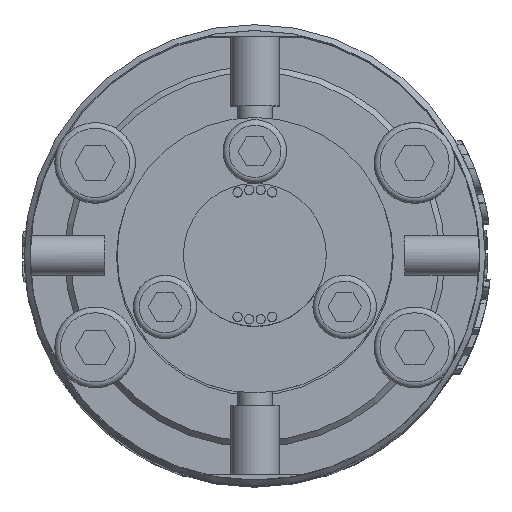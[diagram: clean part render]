
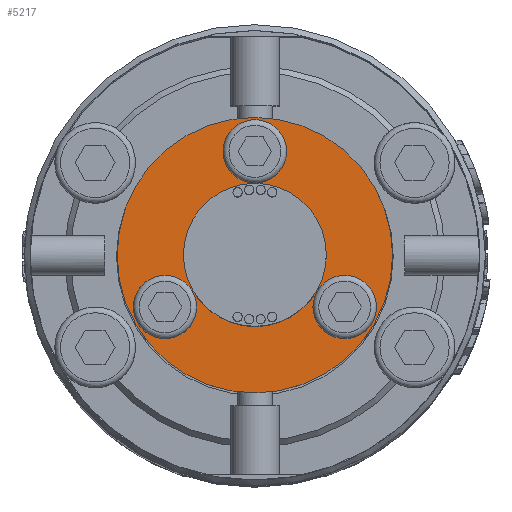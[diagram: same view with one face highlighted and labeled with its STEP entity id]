
A CAD part, top view. The second image highlights one B-rep face of the part: STEP entity #5217.
In plain terms, the highlighted planar face has unit normal (0, 0, 1).
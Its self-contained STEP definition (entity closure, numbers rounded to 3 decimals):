
#573=FACE_BOUND('',#8758,.T.);
#574=FACE_BOUND('',#8759,.T.);
#575=FACE_BOUND('',#8760,.T.);
#576=FACE_BOUND('',#8761,.T.);
#577=FACE_BOUND('',#8762,.T.);
#977=CIRCLE('',#26155,6.2);
#978=CIRCLE('',#26157,2.75);
#979=CIRCLE('',#26158,2.75);
#980=CIRCLE('',#26159,2.75);
#981=CIRCLE('',#26160,11.95);
#5217=ADVANCED_FACE('',(#573,#574,#575,#576,#577),#5923,.T.);
#5923=PLANE('',#26161);
#8758=EDGE_LOOP('',(#15972));
#8759=EDGE_LOOP('',(#15973));
#8760=EDGE_LOOP('',(#15974));
#8761=EDGE_LOOP('',(#15975));
#8762=EDGE_LOOP('',(#15976));
#15972=ORIENTED_EDGE('',*,*,#22128,.F.);
#15973=ORIENTED_EDGE('',*,*,#22129,.F.);
#15974=ORIENTED_EDGE('',*,*,#22130,.F.);
#15975=ORIENTED_EDGE('',*,*,#22127,.F.);
#15976=ORIENTED_EDGE('',*,*,#22131,.F.);
#18547=VERTEX_POINT('',#51162);
#18548=VERTEX_POINT('',#51165);
#18549=VERTEX_POINT('',#51167);
#18550=VERTEX_POINT('',#51169);
#18551=VERTEX_POINT('',#51171);
#22127=EDGE_CURVE('',#18547,#18547,#977,.T.);
#22128=EDGE_CURVE('',#18548,#18548,#978,.T.);
#22129=EDGE_CURVE('',#18549,#18549,#979,.T.);
#22130=EDGE_CURVE('',#18550,#18550,#980,.T.);
#22131=EDGE_CURVE('',#18551,#18551,#981,.T.);
#26155=AXIS2_PLACEMENT_3D('',#51161,#29872,#29873);
#26157=AXIS2_PLACEMENT_3D('',#51164,#29876,#29877);
#26158=AXIS2_PLACEMENT_3D('',#51166,#29878,#29879);
#26159=AXIS2_PLACEMENT_3D('',#51168,#29880,#29881);
#26160=AXIS2_PLACEMENT_3D('',#51170,#29882,#29883);
#26161=AXIS2_PLACEMENT_3D('',#51172,#29884,#29885);
#29872=DIRECTION('',(0.,0.,1.));
#29873=DIRECTION('',(0.,1.,0.));
#29876=DIRECTION('',(0.,0.,1.));
#29877=DIRECTION('',(1.,0.,0.));
#29878=DIRECTION('',(0.,0.,1.));
#29879=DIRECTION('',(-0.5,0.866,0.));
#29880=DIRECTION('',(0.,0.,1.));
#29881=DIRECTION('',(-0.5,-0.866,0.));
#29882=DIRECTION('',(0.,0.,-1.));
#29883=DIRECTION('',(0.,1.,0.));
#29884=DIRECTION('',(0.,0.,1.));
#29885=DIRECTION('',(0.,1.,0.));
#51161=CARTESIAN_POINT('',(0.,0.,95.5));
#51162=CARTESIAN_POINT('',(0.,6.2,95.5));
#51164=CARTESIAN_POINT('',(0.,9.,95.5));
#51165=CARTESIAN_POINT('',(2.75,9.,95.5));
#51166=CARTESIAN_POINT('',(-7.794,-4.5,95.5));
#51167=CARTESIAN_POINT('',(-9.169,-2.118,95.5));
#51168=CARTESIAN_POINT('',(7.794,-4.5,95.5));
#51169=CARTESIAN_POINT('',(6.419,-6.882,95.5));
#51170=CARTESIAN_POINT('',(0.,0.,95.5));
#51171=CARTESIAN_POINT('',(0.,11.95,95.5));
#51172=CARTESIAN_POINT('',(0.,0.,95.5));
